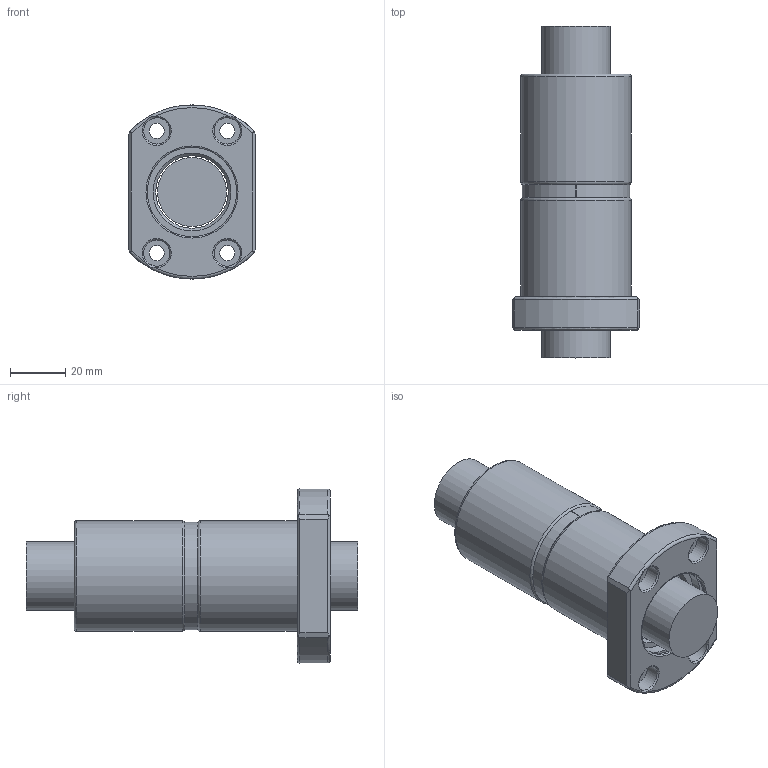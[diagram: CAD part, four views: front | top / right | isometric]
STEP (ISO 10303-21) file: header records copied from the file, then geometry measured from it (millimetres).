
FILE_DESCRIPTION(/* description */ (''),/* implementation_level */ '2;1');
FILE_NAME(/* name */ '2505.prt.step',/* time_stamp */ '2008-12-05T09:21:13+08:00',/* author */ (''),/* organization */ (''),/* preprocessor_version */ 'ST-DEVELOPER v11',/* originating_system */ 'SIEMENS UGS NX 6.0',/* authorisation */ '');
FILE_SCHEMA (('AUTOMOTIVE_DESIGN { 1 0 10303 214 1 1 1 1 }'));
Length unit declared in the file: millimetre
Products named in the file (1): 2505
Bounding box: 46 x 120 x 62.96 mm (x, y, z)
Volume: 133380.9 mm3; surface area: 38699.9 mm2
Topology: 5 solids, 5 shells, 97 faces, 216 edges, 141 vertices
Faces by surface type: plane 40, cylinder 34, torus 13, cone 6, bspline 4
Full cylindrical faces by diameter (mm): 2.5 x8, 5.5 x4, 9.5 x4, 24.95 x1, 26.2 x2, 31 x1, 32.3 x4, 34.7 x1, 35 x1, 40 x2
Entity records: 2746 total; most frequent: CARTESIAN_POINT 736, DIRECTION 410, ORIENTED_EDGE 326, AXIS2_PLACEMENT_3D 185, EDGE_LOOP 168, EDGE_CURVE 163, FACE_BOUND 130, VERTEX_POINT 127
